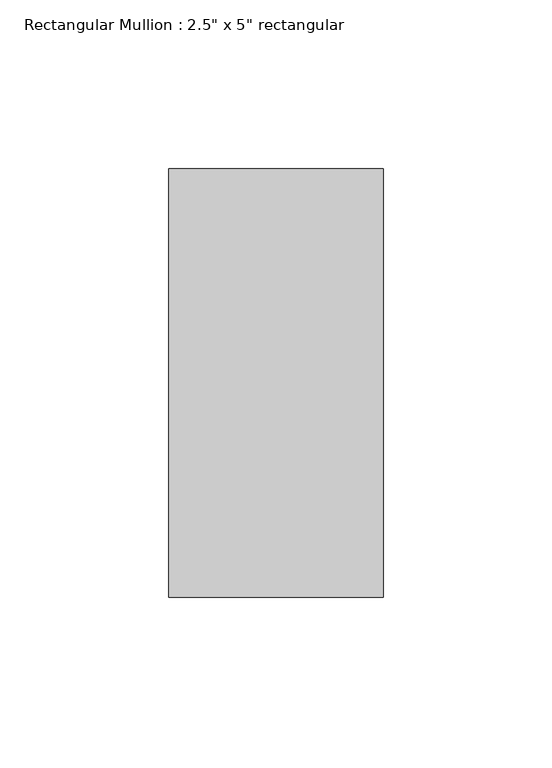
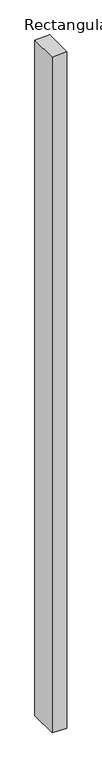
"""IFC4 building model written with IfcOpenShell, lengths in millimetres: member geometry."""

from ifc_helpers import new_model, si_unit, frame, origin, place, context, project, spatial, polyline, outline, extrude, source, transform, mapped, element, save


def member_d205cb55(model_context):
    return source(origin(), model_context, "Body", "SweptSolid", [
        extrude(outline(polyline([(0.0, 0.0), (-1.2449182, -63.5), (-3049.3539218, -63.5), (-3050.596824, 0.0), (0.0, 0.0)])), frame((0.0, -63.5, 0.0), z_axis=(0.0, 1.0, 0.0), x_axis=(0.0, 0.0, 1.0)), (0.0, 0.0, 1.0), 127.0),
    ])


if __name__ == "__main__":
    model = new_model("IFC4")
    model_context = context("Model", 3, world=origin())
    ifc_project = project(units=[si_unit("LENGTHUNIT", "METRE", prefix="MILLI")], contexts=[model_context])
    site = spatial("IfcSite", under=ifc_project)
    building = spatial("IfcBuilding", under=site)
    placement = place(None, origin())
    member_shape = member_d205cb55(model_context)
    element("IfcMember", 1, ObjectType="Rectangular Mullion : 2.5\" x 5\" rectangular", at=placement, inside=building, context=model_context, shape_type="MappedRepresentation", body=[
        mapped(member_shape, transform((0.0, 0.0, 0.0), x_axis=(1.0, 0.0, 0.0), y_axis=(0.0, 1.0, 0.0), z_axis=(0.0, 0.0, 1.0))),
    ])
    save(model, "model.ifc")
